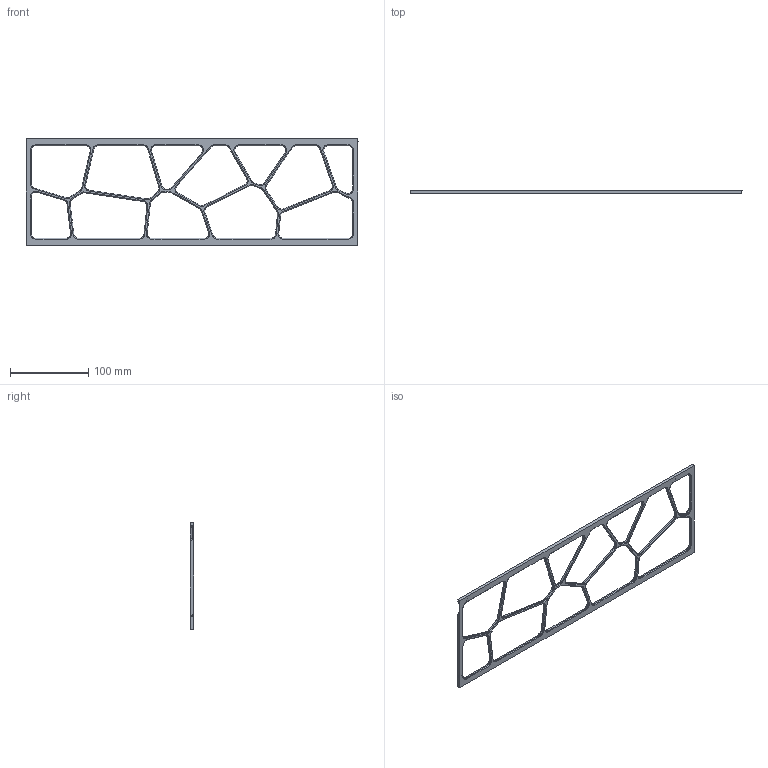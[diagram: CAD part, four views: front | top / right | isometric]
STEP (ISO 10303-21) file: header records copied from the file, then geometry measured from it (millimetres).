
FILE_DESCRIPTION (( 'STEP AP214' ), '1' );
FILE_NAME ('FP.4U.003_1 øò.STEP', '2023-05-17T06:33:55', ( '' ), ( '' ), 'SwSTEP 2.0', 'SolidWorks 2022', '' );
FILE_SCHEMA (( 'AUTOMOTIVE_DESIGN' ));
Length unit declared in the file: millimetre
Products named in the file (1): FP.4U.003_1 шт
Bounding box: 425 x 4 x 136.34 mm (x, y, z)
Volume: 43137.7 mm3; surface area: 40221.3 mm2
Topology: 1 solids, 1 shells, 331 faces, 919 edges, 606 vertices
Faces by surface type: plane 120, cylinder 110, bspline 101
Full cylindrical faces by diameter (mm): 2.1 x2, 4.37 x14
Entity records: 19389 total; most frequent: CARTESIAN_POINT 7972, ORIENTED_EDGE 1798, DIRECTION 1317, EDGE_CURVE 899, VERTEX_POINT 606, AXIS2_PLACEMENT_3D 455, VECTOR 407, LINE 407
